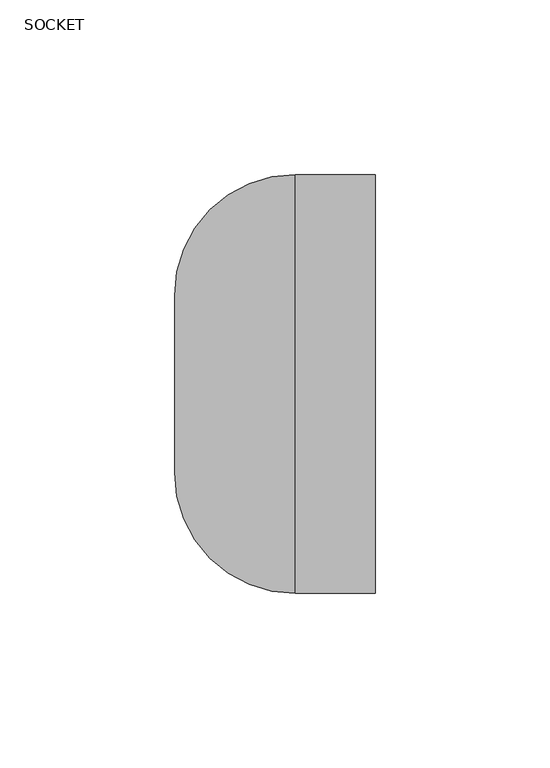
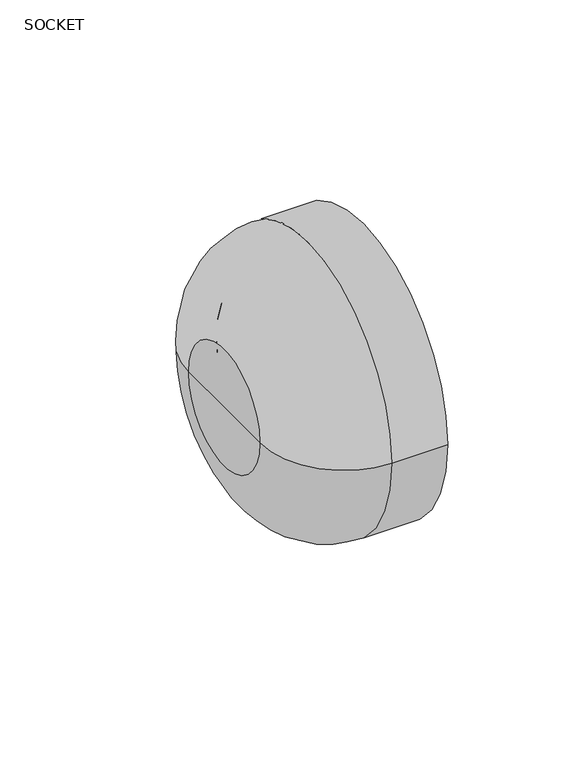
"""IFC4 building model written with IfcOpenShell, lengths in millimetres: pipe fitting geometry, Aquatherm - End Cap Socket : SOCKET."""

from ifc_helpers import new_model, si_unit, point, frame, origin, place, context, project, spatial, polyline, circle_curve, ellipse_curve, trimmed, source, transform, mapped, element, save
from ifc_brep_helpers import plane_surface, cylinder_surface, revolved_surface, advanced_brep


def socket_6964b5d8(model_context):
    return source(origin(), model_context, "Body", "AdvancedBrep", [
        advanced_brep(
        [(-57.404, 0.0, 0.0), (-57.404, 25.4, 0.0), (-57.404, -25.4, 0.0), (-34.8986856, -44.958, 0.0), (-34.8986856, 44.958, 0.0), (-34.8986856, 40.8930856, 0.0), (-34.8986856, -40.8930856, 0.0), (0.0, -44.958, 0.0), (0.0, 44.958, 0.0), (0.0, -59.944, 0.0), (0.0, 59.944, 0.0), (-22.86, -59.944, 0.0), (-22.86, 59.944, 0.0), (-38.3530856, -37.4386856, 0.0), (-38.3530856, 37.4386856, 0.0), (-38.3530856, 0.0, 0.0)],
        [
            (0, 1),
            (1, 2, circle_curve(frame((-57.404, 0.0, 0.0), z_axis=(-1.0, 0.0, 0.0), x_axis=(0.0, 1.0, 0.0)), 25.4)),
            (2, 0),
            (2, 1, circle_curve(frame((-57.404, 0.0, 0.0), z_axis=(-1.0, 0.0, 0.0), x_axis=(0.0, 1.0, 0.0)), 25.4)),
            (3, 4, circle_curve(frame((-34.8986856, 0.0, 0.0), z_axis=(1.0, 0.0, 0.0), x_axis=(0.0, 1.0, 0.0)), 44.958)),
            (4, 5),
            (5, 6, circle_curve(frame((-34.8986856, 0.0, 0.0), z_axis=(-1.0, 0.0, 0.0), x_axis=(0.0, 1.0, 0.0)), 40.8930856)),
            (6, 3),
            (4, 3, circle_curve(frame((-34.8986856, 0.0, 0.0), z_axis=(1.0, 0.0, 0.0), x_axis=(0.0, 1.0, 0.0)), 44.958)),
            (6, 5, circle_curve(frame((-34.8986856, 0.0, 0.0), z_axis=(-1.0, 0.0, 0.0), x_axis=(0.0, 1.0, 0.0)), 40.8930856)),
            (7, 8, circle_curve(frame((0.0, 0.0, 0.0), z_axis=(1.0, 0.0, 0.0), x_axis=(0.0, 1.0, 0.0)), 44.958)),
            (8, 4),
            (3, 7),
            (8, 7, circle_curve(frame((0.0, 0.0, 0.0), z_axis=(1.0, 0.0, 0.0), x_axis=(0.0, 1.0, 0.0)), 44.958)),
            (9, 10, circle_curve(frame((0.0, 0.0, 0.0), z_axis=(1.0, 0.0, 0.0), x_axis=(0.0, 1.0, 0.0)), 59.944)),
            (10, 8),
            (7, 9),
            (10, 9, circle_curve(frame((0.0, 0.0, 0.0), z_axis=(1.0, 0.0, 0.0), x_axis=(0.0, 1.0, 0.0)), 59.944)),
            (11, 12, circle_curve(frame((-22.86, 0.0, 0.0), z_axis=(1.0, 0.0, 0.0), x_axis=(0.0, 1.0, 0.0)), 59.944)),
            (12, 10),
            (9, 11),
            (12, 11, circle_curve(frame((-22.86, 0.0, 0.0), z_axis=(1.0, 0.0, 0.0), x_axis=(0.0, 1.0, 0.0)), 59.944)),
            (1, 12, circle_curve(frame((-22.86, 25.4, 0.0), z_axis=(0.0, 0.0, -1.0), x_axis=(1.0, 0.0, 0.0)), 34.544)),
            (11, 2, circle_curve(frame((-22.86, -25.4, 0.0), z_axis=(0.0, 0.0, -1.0), x_axis=(1.0, 0.0, 0.0)), 34.544)),
            (13, 14, circle_curve(frame((-38.3530856, 0.0, 0.0), z_axis=(1.0, 0.0, 0.0), x_axis=(0.0, 1.0, 0.0)), 37.4386856)),
            (14, 15),
            (15, 13),
            (14, 13, circle_curve(frame((-38.3530856, 0.0, 0.0), z_axis=(1.0, 0.0, 0.0), x_axis=(0.0, 1.0, 0.0)), 37.4386856)),
            (5, 14, circle_curve(frame((-34.8986856, 37.4386856, 0.0), z_axis=(0.0, 0.0, 1.0), x_axis=(1.0, 0.0, 0.0)), 3.4544)),
            (13, 6, circle_curve(frame((-34.8986856, -37.4386856, 0.0), z_axis=(0.0, 0.0, 1.0), x_axis=(1.0, 0.0, 0.0)), 3.4544)),
        ],
        [
            plane_surface(frame((-57.404, 0.0, 0.0), z_axis=(-1.0, 0.0, 0.0), x_axis=(0.0, 1.0, 0.0))),
            plane_surface(frame((-34.8986856, 0.0, 0.0), z_axis=(1.0, 0.0, 0.0), x_axis=(0.0, 1.0, 0.0))),
            revolved_surface(polyline([(-34.8986856, 44.958, 0.0), (0.0, 44.958, 0.0)]), (-38.3530856, 0.0, 0.0), (-1.0, 0.0, 0.0)),
            plane_surface(frame((0.0, 0.0, 0.0), z_axis=(1.0, 0.0, 0.0), x_axis=(0.0, 1.0, 0.0))),
            cylinder_surface(frame((-38.3530856, 0.0, 0.0), z_axis=(-1.0, 0.0, 0.0), x_axis=(0.0, 1.0, 0.0)), 59.944),
            revolved_surface(trimmed(ellipse_curve(frame((-22.86, 25.4, 0.0), z_axis=(0.0, 0.0, 1.0), x_axis=(1.0, 0.0, 0.0)), 34.544, 34.544), [point((-22.86, 59.944, 0.0))], [point((-57.404, 25.4, 0.0))], True, "CARTESIAN"), (-38.3530856, 0.0, 0.0), (-1.0, 0.0, 0.0)),
            plane_surface(frame((-38.3530856, 0.0, 0.0), z_axis=(1.0, 0.0, 0.0), x_axis=(0.0, 1.0, 0.0))),
            revolved_surface(trimmed(ellipse_curve(frame((-34.8986856, 37.4386856, 0.0), z_axis=(0.0, 0.0, -1.0), x_axis=(1.0, 0.0, 0.0)), 3.4544, 3.4544), [point((-38.3530856, 37.4386856, 0.0))], [point((-34.8986856, 40.8930856, 0.0))], True, "CARTESIAN"), (-38.3530856, 0.0, 0.0), (-1.0, 0.0, 0.0)),
        ],
        [
            (0, [[1, 2, 3]]),
            (0, [[-3, 4, -1]]),
            (1, [[5, 6, 7, 8]]),
            (1, [[9, -8, 10, -6]]),
            (2, [[11, 12, -5, 13]]),
            (2, [[14, -13, -9, -12]]),
            (3, [[15, 16, -11, 17]]),
            (3, [[18, -17, -14, -16]]),
            (4, [[19, 20, -15, 21]]),
            (4, [[22, -21, -18, -20]]),
            (5, [[-2, 23, -19, 24]]),
            (5, [[-4, -24, -22, -23]]),
            (6, [[25, 26, 27]]),
            (6, [[28, -27, -26]]),
            (7, [[-7, 29, -25, 30]]),
            (7, [[-10, -30, -28, -29]]),
        ],
    ),
    ])


if __name__ == "__main__":
    model = new_model("IFC4")
    model_context = context("Model", 3, world=origin())
    ifc_project = project(units=[si_unit("LENGTHUNIT", "METRE", prefix="MILLI")], contexts=[model_context])
    site = spatial("IfcSite", under=ifc_project)
    building = spatial("IfcBuilding", under=site)
    placement = place(None, origin())
    ifc_socket_shape = socket_6964b5d8(model_context)
    element("IfcPipeFitting", 1, ObjectType="Aquatherm - End Cap Socket : SOCKET", at=placement, inside=building, context=model_context, shape_type="MappedRepresentation", body=[
        mapped(ifc_socket_shape, transform((0.0, 0.0, 0.0), x_axis=(1.0, 0.0, 0.0), y_axis=(0.0, 1.0, 0.0), z_axis=(0.0, 0.0, 1.0))),
    ])
    save(model, "model.ifc")
